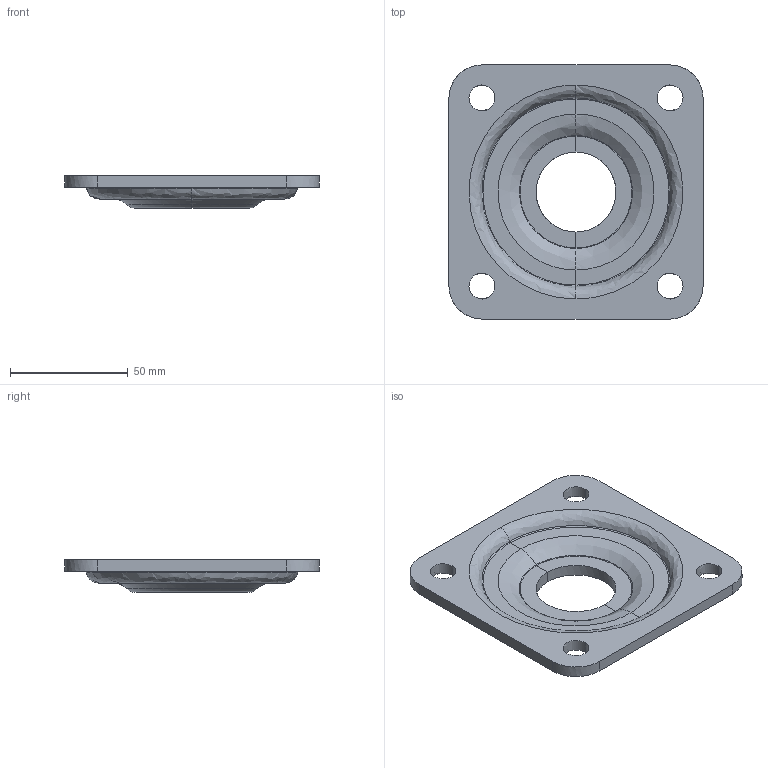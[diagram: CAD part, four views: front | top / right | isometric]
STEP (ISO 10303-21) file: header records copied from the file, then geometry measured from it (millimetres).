
FILE_DESCRIPTION (( 'STEP AP214' ), '1' );
FILE_NAME ('HP-100WJ-10.STEP', '2020-07-04T07:56:23', ( '' ), ( '' ), 'SwSTEP 2.0', 'SolidWorks 2010', '' );
FILE_SCHEMA (( 'AUTOMOTIVE_DESIGN' ));
Length unit declared in the file: millimetre
Products named in the file (1): HP-100WJ-10
Bounding box: 108 x 108 x 14 mm (x, y, z)
Volume: 55306.4 mm3; surface area: 25391 mm2
Topology: 1 solids, 1 shells, 44 faces, 110 edges, 68 vertices
Faces by surface type: bspline 38, plane 6
Entity records: 5756 total; most frequent: CARTESIAN_POINT 4961, ORIENTED_EDGE 220, EDGE_CURVE 110, B_SPLINE_CURVE_WITH_KNOTS 94, VERTEX_POINT 68, EDGE_LOOP 54, ADVANCED_FACE 44, FACE_OUTER_BOUND 44
